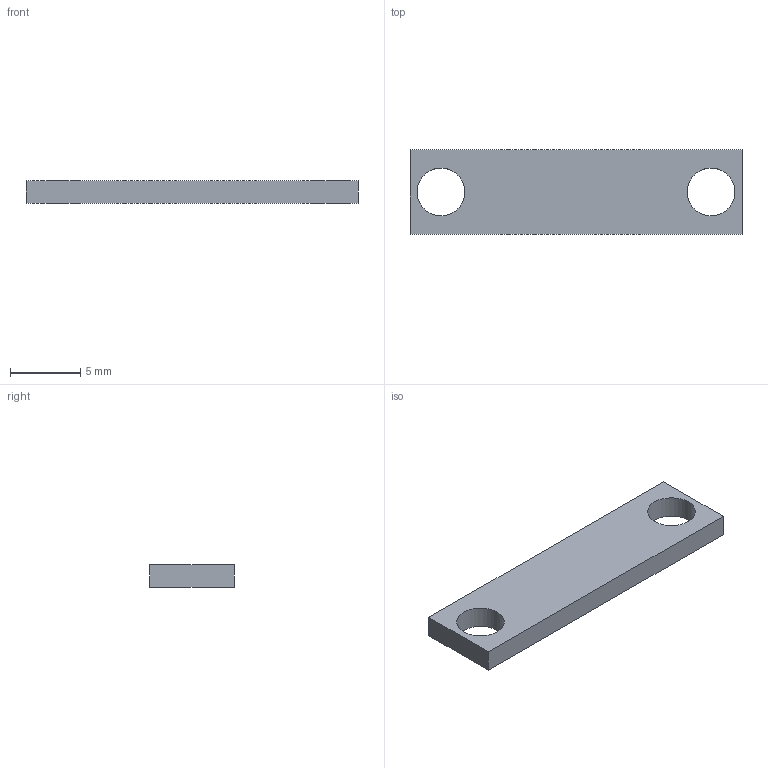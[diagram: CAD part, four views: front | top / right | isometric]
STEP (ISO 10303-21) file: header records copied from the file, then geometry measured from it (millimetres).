
FILE_DESCRIPTION(('FreeCAD Model'),'2;1');
FILE_NAME('Open CASCADE Shape Model','2026-11-20T08:25:39',('FreeCAD'),( 'FreeCAD'),'Open CASCADE STEP processor 7.8','FreeCAD','Unknown');
FILE_SCHEMA(('AUTOMOTIVE_DESIGN { 1 0 10303 214 1 1 1 1 }'));
Length unit declared in the file: millimetre
Products named in the file (1): Open CASCADE STEP translator 7.8 78
Bounding box: 23.6 x 6 x 1.6 mm (x, y, z)
Volume: 197.5 mm3; surface area: 375.8 mm2
Topology: 1 solids, 1 shells, 8 faces, 18 edges, 12 vertices
Faces by surface type: plane 6, cylinder 2
Full cylindrical faces by diameter (mm): 3.4 x2
Entity records: 244 total; most frequent: DIRECTION 40, CARTESIAN_POINT 39, ORIENTED_EDGE 36, EDGE_CURVE 18, LINE 14, VECTOR 14, AXIS2_PLACEMENT_3D 13, FACE_BOUND 12
